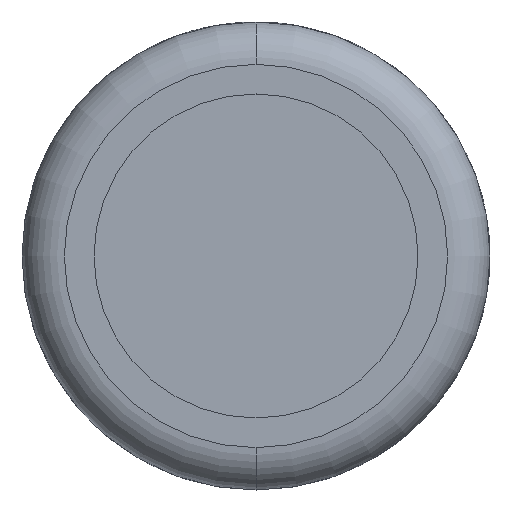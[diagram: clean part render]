
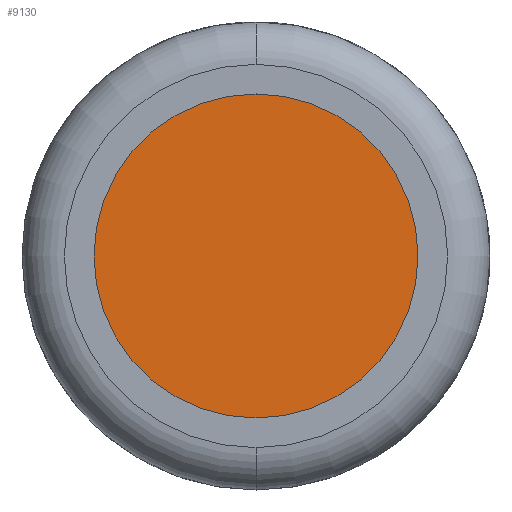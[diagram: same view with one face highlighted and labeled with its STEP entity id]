
A CAD part, front view. The second image highlights one B-rep face of the part: STEP entity #9130.
In plain terms, the highlighted planar face has unit normal (0, -1, 0).
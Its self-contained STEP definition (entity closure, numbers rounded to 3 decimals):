
#1260 = EDGE_CURVE ( 'NONE', #5241, #5280, #6110, .T. ) ;
#3061 = FACE_OUTER_BOUND ( 'NONE', #8888, .T. ) ;
#3062 = PLANE ( 'NONE',  #3063 ) ;
#3063 = AXIS2_PLACEMENT_3D ( 'NONE', #3064, #3065, #3067 ) ;
#3064 = CARTESIAN_POINT ( 'NONE',  ( 0., 10., 0. ) ) ;
#3065 = DIRECTION ( 'NONE',  ( 0., -1., 0. ) ) ;
#3067 = DIRECTION ( 'NONE',  ( 0., 0., -1. ) ) ;
#5241 = VERTEX_POINT ( 'NONE', #8071 ) ;
#5280 = VERTEX_POINT ( 'NONE', #8228 ) ;
#5314 = EDGE_CURVE ( 'NONE', #5280, #5241, #8380, .T. ) ;
#6110 = CIRCLE ( 'NONE', #6111, 7.65 ) ;
#6111 = AXIS2_PLACEMENT_3D ( 'NONE', #6112, #6113, #6114 ) ;
#6112 = CARTESIAN_POINT ( 'NONE',  ( 0., 10., 0. ) ) ;
#6113 = DIRECTION ( 'NONE',  ( 0., -1., 0. ) ) ;
#6114 = DIRECTION ( 'NONE',  ( 0., 0., -1. ) ) ;
#7824 = ORIENTED_EDGE ( 'NONE', *, *, #5314, .T. ) ;
#8071 = CARTESIAN_POINT ( 'NONE',  ( 0., 10., -7.65 ) ) ;
#8228 = CARTESIAN_POINT ( 'NONE',  ( 0., 10., 7.65 ) ) ;
#8356 = ORIENTED_EDGE ( 'NONE', *, *, #1260, .T. ) ;
#8380 = CIRCLE ( 'NONE', #8381, 7.65 ) ;
#8381 = AXIS2_PLACEMENT_3D ( 'NONE', #8382, #8383, #8384 ) ;
#8382 = CARTESIAN_POINT ( 'NONE',  ( 0., 10., 0. ) ) ;
#8383 = DIRECTION ( 'NONE',  ( 0., -1., 0. ) ) ;
#8384 = DIRECTION ( 'NONE',  ( 0., 0., -1. ) ) ;
#8888 = EDGE_LOOP ( 'NONE', ( #8356, #7824 ) ) ;
#9130 = ADVANCED_FACE ( 'NONE', ( #3061 ), #3062, .T. ) ;
